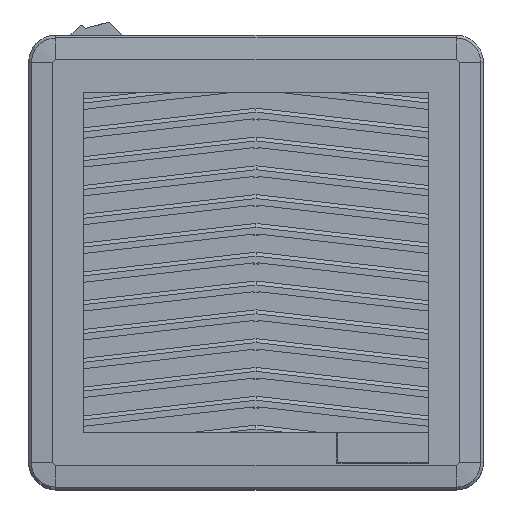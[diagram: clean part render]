
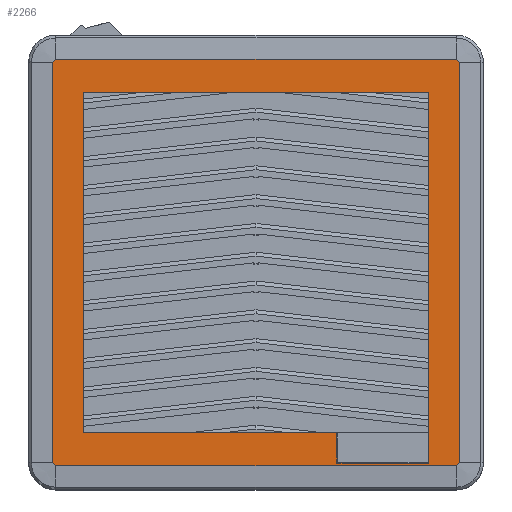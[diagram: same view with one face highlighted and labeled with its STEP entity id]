
A CAD part, top view. The second image highlights one B-rep face of the part: STEP entity #2266.
In plain terms, the highlighted planar face has unit normal (0, 0, 1).
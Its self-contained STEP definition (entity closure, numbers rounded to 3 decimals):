
#91=FACE_BOUND('',#3465,.T.);
#2266=ADVANCED_FACE('',(#2826,#91),#11279,.T.);
#2826=FACE_OUTER_BOUND('',#3464,.T.);
#3464=EDGE_LOOP('',(#6355,#6356,#6357,#6358,#6359,#6360,#6361,#6362));
#3465=EDGE_LOOP('',(#6363,#6364,#6365,#6366,#6367,#6368));
#6355=ORIENTED_EDGE('',*,*,#8188,.F.);
#6356=ORIENTED_EDGE('',*,*,#8202,.F.);
#6357=ORIENTED_EDGE('',*,*,#8171,.F.);
#6358=ORIENTED_EDGE('',*,*,#8195,.F.);
#6359=ORIENTED_EDGE('',*,*,#8166,.F.);
#6360=ORIENTED_EDGE('',*,*,#8198,.F.);
#6361=ORIENTED_EDGE('',*,*,#8172,.F.);
#6362=ORIENTED_EDGE('',*,*,#8200,.F.);
#6363=ORIENTED_EDGE('',*,*,#8219,.T.);
#6364=ORIENTED_EDGE('',*,*,#8074,.F.);
#6365=ORIENTED_EDGE('',*,*,#7814,.F.);
#6366=ORIENTED_EDGE('',*,*,#8082,.F.);
#6367=ORIENTED_EDGE('',*,*,#7818,.F.);
#6368=ORIENTED_EDGE('',*,*,#8220,.T.);
#7814=EDGE_CURVE('',#10610,#10559,#9417,.T.);
#7818=EDGE_CURVE('',#10614,#10615,#9421,.T.);
#8074=EDGE_CURVE('',#10559,#10807,#9677,.T.);
#8082=EDGE_CURVE('',#10615,#10610,#9685,.T.);
#8166=EDGE_CURVE('',#10813,#10814,#8472,.T.);
#8171=EDGE_CURVE('',#10820,#10817,#8475,.T.);
#8172=EDGE_CURVE('',#10821,#10822,#8476,.T.);
#8188=EDGE_CURVE('',#10834,#10832,#8486,.T.);
#8195=EDGE_CURVE('',#10814,#10820,#9781,.T.);
#8198=EDGE_CURVE('',#10822,#10813,#9784,.T.);
#8200=EDGE_CURVE('',#10832,#10821,#9786,.T.);
#8202=EDGE_CURVE('',#10817,#10834,#9788,.T.);
#8219=EDGE_CURVE('',#10845,#10807,#9801,.T.);
#8220=EDGE_CURVE('',#10614,#10845,#9802,.T.);
#8472=(
BOUNDED_CURVE()
B_SPLINE_CURVE(2,(#32068,#32069,#32070),.UNSPECIFIED.,.F.,.F.)
B_SPLINE_CURVE_WITH_KNOTS((3,3),(0.,1.571),.UNSPECIFIED.)
CURVE()
GEOMETRIC_REPRESENTATION_ITEM()
RATIONAL_B_SPLINE_CURVE((1.,0.707,1.))
REPRESENTATION_ITEM('')
);
#8475=(
BOUNDED_CURVE()
B_SPLINE_CURVE(2,(#32081,#32082,#32083),.UNSPECIFIED.,.F.,.F.)
B_SPLINE_CURVE_WITH_KNOTS((3,3),(0.,1.571),.UNSPECIFIED.)
CURVE()
GEOMETRIC_REPRESENTATION_ITEM()
RATIONAL_B_SPLINE_CURVE((1.,0.707,1.))
REPRESENTATION_ITEM('')
);
#8476=(
BOUNDED_CURVE()
B_SPLINE_CURVE(2,(#32084,#32085,#32086),.UNSPECIFIED.,.F.,.F.)
B_SPLINE_CURVE_WITH_KNOTS((3,3),(0.,1.571),.UNSPECIFIED.)
CURVE()
GEOMETRIC_REPRESENTATION_ITEM()
RATIONAL_B_SPLINE_CURVE((1.,0.707,1.))
REPRESENTATION_ITEM('')
);
#8486=(
BOUNDED_CURVE()
B_SPLINE_CURVE(2,(#32126,#32127,#32128),.UNSPECIFIED.,.F.,.F.)
B_SPLINE_CURVE_WITH_KNOTS((3,3),(0.,1.571),.UNSPECIFIED.)
CURVE()
GEOMETRIC_REPRESENTATION_ITEM()
RATIONAL_B_SPLINE_CURVE((1.,0.707,1.))
REPRESENTATION_ITEM('')
);
#9417=B_SPLINE_CURVE_WITH_KNOTS('',1,(#31364,#31365),.UNSPECIFIED.,.F.,
 .F.,(2,2),(0.,112.),.UNSPECIFIED.);
#9421=B_SPLINE_CURVE_WITH_KNOTS('',1,(#31372,#31373),.UNSPECIFIED.,.F.,
 .F.,(2,2),(0.,122.15),.UNSPECIFIED.);
#9677=B_SPLINE_CURVE_WITH_KNOTS('',1,(#31884,#31885),.UNSPECIFIED.,.F.,
 .F.,(2,2),(0.,83.7),.UNSPECIFIED.);
#9685=B_SPLINE_CURVE_WITH_KNOTS('',1,(#31900,#31901),.UNSPECIFIED.,.F.,
 .F.,(2,2),(0.,114.),.UNSPECIFIED.);
#9781=B_SPLINE_CURVE_WITH_KNOTS('',1,(#32143,#32144),.UNSPECIFIED.,.F.,
 .F.,(2,2),(0.,132.),.UNSPECIFIED.);
#9784=B_SPLINE_CURVE_WITH_KNOTS('',1,(#32149,#32150),.UNSPECIFIED.,.F.,
 .F.,(2,2),(0.,132.),.UNSPECIFIED.);
#9786=B_SPLINE_CURVE_WITH_KNOTS('',1,(#32153,#32154),.UNSPECIFIED.,.F.,
 .F.,(2,2),(0.,132.),.UNSPECIFIED.);
#9788=B_SPLINE_CURVE_WITH_KNOTS('',1,(#32157,#32158),.UNSPECIFIED.,.F.,
 .F.,(2,2),(0.,132.),.UNSPECIFIED.);
#9801=B_SPLINE_CURVE_WITH_KNOTS('',1,(#32195,#32196),.UNSPECIFIED.,.F.,
 .F.,(2,2),(0.,10.15),.UNSPECIFIED.);
#9802=B_SPLINE_CURVE_WITH_KNOTS('',1,(#32197,#32198),.UNSPECIFIED.,.F.,
 .F.,(2,2),(0.,30.3),.UNSPECIFIED.);
#10559=VERTEX_POINT('',#31022);
#10610=VERTEX_POINT('',#31073);
#10614=VERTEX_POINT('',#31077);
#10615=VERTEX_POINT('',#31078);
#10807=VERTEX_POINT('',#31270);
#10813=VERTEX_POINT('',#31276);
#10814=VERTEX_POINT('',#31277);
#10817=VERTEX_POINT('',#31280);
#10820=VERTEX_POINT('',#31283);
#10821=VERTEX_POINT('',#31284);
#10822=VERTEX_POINT('',#31285);
#10832=VERTEX_POINT('',#31295);
#10834=VERTEX_POINT('',#31297);
#10845=VERTEX_POINT('',#31308);
#11279=PLANE('',#12073);
#12073=AXIS2_PLACEMENT_3D('',#30989,#12609,$);
#12609=DIRECTION('',(0.,0.,1.));
#30989=CARTESIAN_POINT('',(-78.5,-80.4,5.2));
#31022=CARTESIAN_POINT('',(-54.1,57.,5.2));
#31073=CARTESIAN_POINT('',(57.9,57.,5.2));
#31077=CARTESIAN_POINT('',(-64.25,-57.,5.2));
#31078=CARTESIAN_POINT('',(57.9,-57.,5.2));
#31270=CARTESIAN_POINT('',(-54.1,-26.7,5.2));
#31276=CARTESIAN_POINT('',(67.9,67.,5.2));
#31277=CARTESIAN_POINT('',(68.9,66.,5.2));
#31280=CARTESIAN_POINT('',(67.9,-67.,5.2));
#31283=CARTESIAN_POINT('',(68.9,-66.,5.2));
#31284=CARTESIAN_POINT('',(-65.1,66.,5.2));
#31285=CARTESIAN_POINT('',(-64.1,67.,5.2));
#31295=CARTESIAN_POINT('',(-65.1,-66.,5.2));
#31297=CARTESIAN_POINT('',(-64.1,-67.,5.2));
#31308=CARTESIAN_POINT('',(-64.25,-26.7,5.2));
#31364=CARTESIAN_POINT('',(57.9,57.,5.2));
#31365=CARTESIAN_POINT('',(-54.1,57.,5.2));
#31372=CARTESIAN_POINT('',(-64.25,-57.,5.2));
#31373=CARTESIAN_POINT('',(57.9,-57.,5.2));
#31884=CARTESIAN_POINT('',(-54.1,57.,5.2));
#31885=CARTESIAN_POINT('',(-54.1,-26.7,5.2));
#31900=CARTESIAN_POINT('',(57.9,-57.,5.2));
#31901=CARTESIAN_POINT('',(57.9,57.,5.2));
#32068=CARTESIAN_POINT('',(67.9,67.,5.2));
#32069=CARTESIAN_POINT('',(68.9,67.,5.2));
#32070=CARTESIAN_POINT('',(68.9,66.,5.2));
#32081=CARTESIAN_POINT('',(68.9,-66.,5.2));
#32082=CARTESIAN_POINT('',(68.9,-67.,5.2));
#32083=CARTESIAN_POINT('',(67.9,-67.,5.2));
#32084=CARTESIAN_POINT('',(-65.1,66.,5.2));
#32085=CARTESIAN_POINT('',(-65.1,67.,5.2));
#32086=CARTESIAN_POINT('',(-64.1,67.,5.2));
#32126=CARTESIAN_POINT('',(-64.1,-67.,5.2));
#32127=CARTESIAN_POINT('',(-65.1,-67.,5.2));
#32128=CARTESIAN_POINT('',(-65.1,-66.,5.2));
#32143=CARTESIAN_POINT('',(68.9,66.,5.2));
#32144=CARTESIAN_POINT('',(68.9,-66.,5.2));
#32149=CARTESIAN_POINT('',(-64.1,67.,5.2));
#32150=CARTESIAN_POINT('',(67.9,67.,5.2));
#32153=CARTESIAN_POINT('',(-65.1,-66.,5.2));
#32154=CARTESIAN_POINT('',(-65.1,66.,5.2));
#32157=CARTESIAN_POINT('',(67.9,-67.,5.2));
#32158=CARTESIAN_POINT('',(-64.1,-67.,5.2));
#32195=CARTESIAN_POINT('',(-64.25,-26.7,5.2));
#32196=CARTESIAN_POINT('',(-54.1,-26.7,5.2));
#32197=CARTESIAN_POINT('',(-64.25,-57.,5.2));
#32198=CARTESIAN_POINT('',(-64.25,-26.7,5.2));
